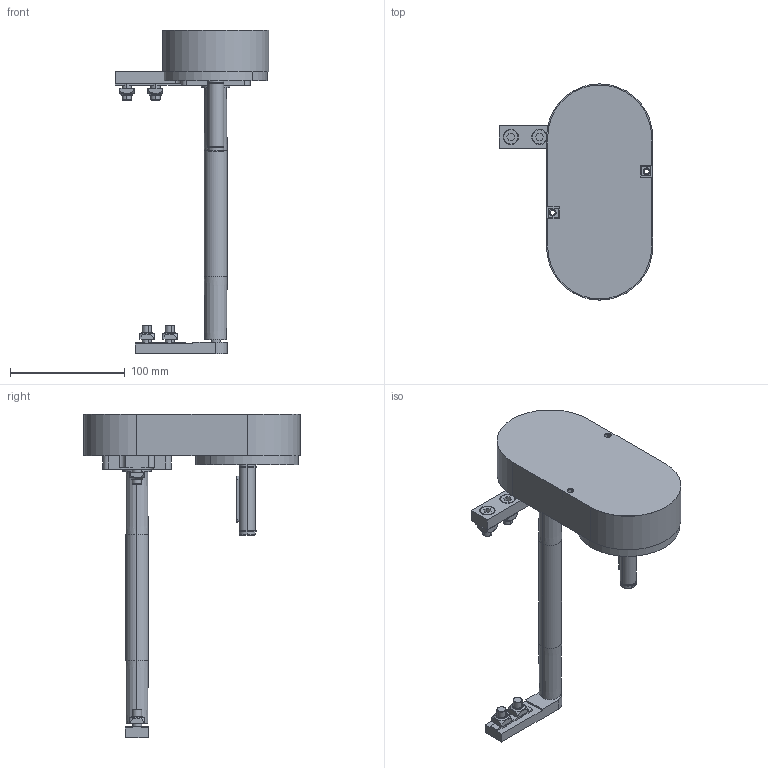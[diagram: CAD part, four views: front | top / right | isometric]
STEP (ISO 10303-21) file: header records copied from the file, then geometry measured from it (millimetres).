
FILE_DESCRIPTION (( 'STEP AP214' ), '1' );
FILE_NAME ('084.020.KT.30.200.STEP', '2021-02-05T14:07:14', ( '' ), ( '' ), 'SwSTEP 2.0', 'SolidWorks 2018', '' );
FILE_SCHEMA (( 'AUTOMOTIVE_DESIGN' ));
Length unit declared in the file: millimetre
Products named in the file (24): CHIAVETTE_A 5x5x40 UNI 6604-69; 084.800.014; 084.800.010_084.800.010; 084.800.009; 084.800.013; 084.800.011; CHIAVETTE_A 4x4x15 UNI 6604-69; circlip for shafts normal_din_PreviewCfg; 084.800.002; 084.301.000 VITI ALUSIC_084.301.003; 084.800.004; 084.800.024; 084.800.001-1; 084.800.016; 084.020.KT.30.200; 084.802.016_084.802.016; 084.800.007; 084.800.003; 084.800.006; 084.800.012; 084.800.005; 084.800.008; 084.800.015; 084.302.000 DADI ALUSIC 13x13-1_084.302.004
Assembly tree (35 placements, depth 2):
  084.020.KT.30.200
    084.800.013  x2
    084.800.016
    084.800.024
    084.800.004
    084.800.005
    084.800.010_084.800.010  x2
    084.800.009
    084.800.011
    084.800.002
    084.800.001-1
    084.802.016_084.802.016
    084.800.007
    084.800.012  x2
    084.800.008
    084.800.006
    084.800.014
    084.800.015
    084.800.003
    circlip for shafts normal_din_PreviewCfg  x3
    CHIAVETTE_A 4x4x15 UNI 6604-69  x2
    CHIAVETTE_A 5x5x40 UNI 6604-69
    084.301.000 VITI ALUSIC_084.301.003  x4
    084.302.000 DADI ALUSIC 13x13-1_084.302.004  x4
Bounding box: 133.75 x 188.5 x 282 mm (x, y, z)
Volume: 356756 mm3; surface area: 230999 mm2
Topology: 115 solids, 116 shells, 2108 faces, 5319 edges, 3489 vertices
Faces by surface type: cylinder 1070, plane 834, torus 106, cone 78, bspline 16, sphere 4
Entity records: 49381 total; most frequent: DIRECTION 8679, CARTESIAN_POINT 8535, ORIENTED_EDGE 7658, EDGE_CURVE 3829, AXIS2_PLACEMENT_3D 3304, VERTEX_POINT 2518, LINE 2071, VECTOR 2071
